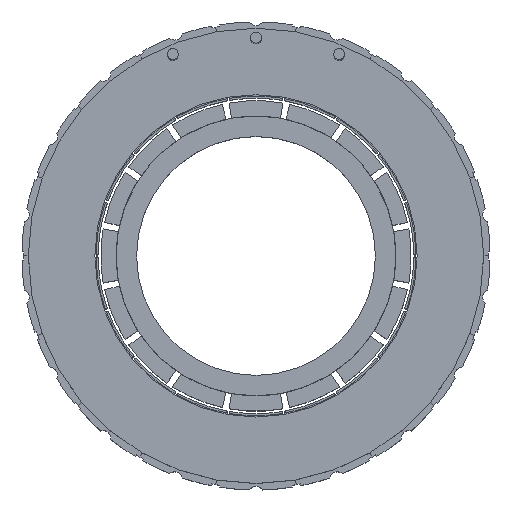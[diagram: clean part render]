
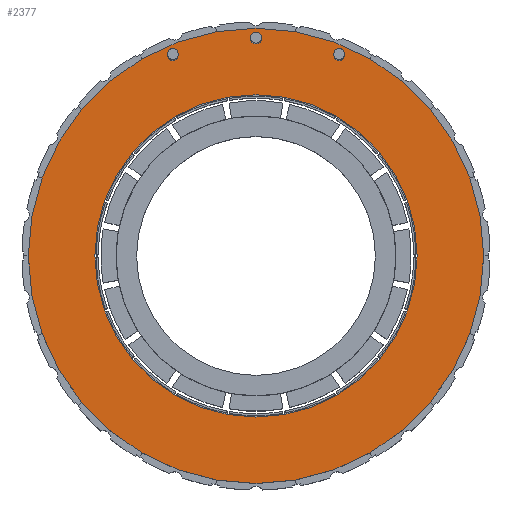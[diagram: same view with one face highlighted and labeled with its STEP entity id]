
A CAD part, top view. The second image highlights one B-rep face of the part: STEP entity #2377.
In plain terms, the highlighted planar face has unit normal (0, 0, 1).
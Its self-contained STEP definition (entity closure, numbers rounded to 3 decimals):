
#82 = ORIENTED_EDGE ( 'NONE', *, *, #1435, .T. ) ;
#107 = EDGE_CURVE ( 'NONE', #5056, #3053, #3077, .T. ) ;
#182 = DIRECTION ( 'NONE',  ( 0., 0., 1. ) ) ;
#243 = AXIS2_PLACEMENT_3D ( 'NONE', #2244, #3508, #4837 ) ;
#278 = CARTESIAN_POINT ( 'NONE',  ( 0., 0., 28.5 ) ) ;
#367 = ORIENTED_EDGE ( 'NONE', *, *, #4792, .F. ) ;
#647 = EDGE_LOOP ( 'NONE', ( #4572, #82 ) ) ;
#730 = ORIENTED_EDGE ( 'NONE', *, *, #2211, .F. ) ;
#830 = DIRECTION ( 'NONE',  ( 1., 0., 0. ) ) ;
#871 = DIRECTION ( 'NONE',  ( 0., 0., 1. ) ) ;
#877 = PLANE ( 'NONE',  #243 ) ;
#961 = CIRCLE ( 'NONE', #1499, 31.5 ) ;
#1029 = EDGE_LOOP ( 'NONE', ( #1664, #2318 ) ) ;
#1096 = VERTEX_POINT ( 'NONE', #5334 ) ;
#1156 = VERTEX_POINT ( 'NONE', #2701 ) ;
#1246 = CARTESIAN_POINT ( 'NONE',  ( 16.264, 39.265, 28.5 ) ) ;
#1329 = FACE_BOUND ( 'NONE', #3177, .T. ) ;
#1332 = VERTEX_POINT ( 'NONE', #3434 ) ;
#1343 = CIRCLE ( 'NONE', #2166, 1.08 ) ;
#1352 = CARTESIAN_POINT ( 'NONE',  ( 16.264, 39.265, 28.5 ) ) ;
#1384 = FACE_BOUND ( 'NONE', #1029, .T. ) ;
#1409 = FACE_BOUND ( 'NONE', #1919, .T. ) ;
#1435 = EDGE_CURVE ( 'NONE', #1156, #2354, #5402, .T. ) ;
#1464 = ORIENTED_EDGE ( 'NONE', *, *, #2031, .F. ) ;
#1499 = AXIS2_PLACEMENT_3D ( 'NONE', #5003, #2380, #2794 ) ;
#1521 = EDGE_LOOP ( 'NONE', ( #1464, #1951 ) ) ;
#1531 = VERTEX_POINT ( 'NONE', #2496 ) ;
#1664 = ORIENTED_EDGE ( 'NONE', *, *, #2545, .F. ) ;
#1703 = AXIS2_PLACEMENT_3D ( 'NONE', #1352, #871, #2290 ) ;
#1779 = VERTEX_POINT ( 'NONE', #4140 ) ;
#1785 = FACE_OUTER_BOUND ( 'NONE', #647, .T. ) ;
#1788 = CIRCLE ( 'NONE', #4226, 1.08 ) ;
#1919 = EDGE_LOOP ( 'NONE', ( #4561, #367 ) ) ;
#1951 = ORIENTED_EDGE ( 'NONE', *, *, #4111, .F. ) ;
#2031 = EDGE_CURVE ( 'NONE', #1531, #1096, #3415, .T. ) ;
#2092 = VERTEX_POINT ( 'NONE', #3429 ) ;
#2166 = AXIS2_PLACEMENT_3D ( 'NONE', #3791, #5506, #3762 ) ;
#2211 = EDGE_CURVE ( 'NONE', #2092, #1332, #1788, .T. ) ;
#2244 = CARTESIAN_POINT ( 'NONE',  ( 0., 0., 28.5 ) ) ;
#2252 = CIRCLE ( 'NONE', #1703, 1.08 ) ;
#2290 = DIRECTION ( 'NONE',  ( 1., 0., 0. ) ) ;
#2318 = ORIENTED_EDGE ( 'NONE', *, *, #3578, .F. ) ;
#2354 = VERTEX_POINT ( 'NONE', #3080 ) ;
#2371 = DIRECTION ( 'NONE',  ( 0., 0., 1. ) ) ;
#2377 = ADVANCED_FACE ( 'NONE', ( #1409, #1329, #4750, #1785, #1384 ), #877, .T. ) ;
#2380 = DIRECTION ( 'NONE',  ( 0., 0., 1. ) ) ;
#2382 = AXIS2_PLACEMENT_3D ( 'NONE', #3669, #2371, #3269 ) ;
#2386 = DIRECTION ( 'NONE',  ( 1., 0., 0. ) ) ;
#2477 = DIRECTION ( 'NONE',  ( 1., 0., 0. ) ) ;
#2496 = CARTESIAN_POINT ( 'NONE',  ( -1.08, 42.5, 28.5 ) ) ;
#2522 = DIRECTION ( 'NONE',  ( 0., 0., 1. ) ) ;
#2545 = EDGE_CURVE ( 'NONE', #1779, #4592, #961, .T. ) ;
#2575 = DIRECTION ( 'NONE',  ( 1., 0., 0. ) ) ;
#2610 = CARTESIAN_POINT ( 'NONE',  ( 0., 0., 28.5 ) ) ;
#2627 = CARTESIAN_POINT ( 'NONE',  ( -15.184, 39.265, 28.5 ) ) ;
#2701 = CARTESIAN_POINT ( 'NONE',  ( 44.5, 0., 28.5 ) ) ;
#2794 = DIRECTION ( 'NONE',  ( 1., 0., 0. ) ) ;
#2864 = CARTESIAN_POINT ( 'NONE',  ( 0., 42.5, 28.5 ) ) ;
#2917 = DIRECTION ( 'NONE',  ( 1., 0., 0. ) ) ;
#3053 = VERTEX_POINT ( 'NONE', #2627 ) ;
#3077 = CIRCLE ( 'NONE', #3626, 1.08 ) ;
#3080 = CARTESIAN_POINT ( 'NONE',  ( -44.5, 0., 28.5 ) ) ;
#3118 = AXIS2_PLACEMENT_3D ( 'NONE', #278, #3812, #2477 ) ;
#3177 = EDGE_LOOP ( 'NONE', ( #3650, #730 ) ) ;
#3201 = EDGE_CURVE ( 'NONE', #2354, #1156, #4812, .T. ) ;
#3269 = DIRECTION ( 'NONE',  ( 1., 0., 0. ) ) ;
#3375 = DIRECTION ( 'NONE',  ( 0., 0., 1. ) ) ;
#3415 = CIRCLE ( 'NONE', #3686, 1.08 ) ;
#3429 = CARTESIAN_POINT ( 'NONE',  ( 17.344, 39.265, 28.5 ) ) ;
#3434 = CARTESIAN_POINT ( 'NONE',  ( 15.184, 39.265, 28.5 ) ) ;
#3508 = DIRECTION ( 'NONE',  ( 0., 0., 1. ) ) ;
#3578 = EDGE_CURVE ( 'NONE', #4592, #1779, #4122, .T. ) ;
#3626 = AXIS2_PLACEMENT_3D ( 'NONE', #4588, #182, #2386 ) ;
#3650 = ORIENTED_EDGE ( 'NONE', *, *, #4999, .F. ) ;
#3669 = CARTESIAN_POINT ( 'NONE',  ( 0., 0., 28.5 ) ) ;
#3686 = AXIS2_PLACEMENT_3D ( 'NONE', #4731, #4252, #830 ) ;
#3711 = CARTESIAN_POINT ( 'NONE',  ( 31.5, 0., 28.5 ) ) ;
#3762 = DIRECTION ( 'NONE',  ( 1., 0., 0. ) ) ;
#3791 = CARTESIAN_POINT ( 'NONE',  ( -16.264, 39.265, 28.5 ) ) ;
#3812 = DIRECTION ( 'NONE',  ( 0., 0., 1. ) ) ;
#3890 = DIRECTION ( 'NONE',  ( 1., 0., 0. ) ) ;
#4051 = CIRCLE ( 'NONE', #4683, 1.08 ) ;
#4111 = EDGE_CURVE ( 'NONE', #1096, #1531, #4051, .T. ) ;
#4122 = CIRCLE ( 'NONE', #3118, 31.5 ) ;
#4140 = CARTESIAN_POINT ( 'NONE',  ( -31.5, 0., 28.5 ) ) ;
#4226 = AXIS2_PLACEMENT_3D ( 'NONE', #1246, #2522, #2575 ) ;
#4233 = AXIS2_PLACEMENT_3D ( 'NONE', #2610, #3375, #3890 ) ;
#4252 = DIRECTION ( 'NONE',  ( 0., 0., 1. ) ) ;
#4561 = ORIENTED_EDGE ( 'NONE', *, *, #107, .F. ) ;
#4572 = ORIENTED_EDGE ( 'NONE', *, *, #3201, .T. ) ;
#4588 = CARTESIAN_POINT ( 'NONE',  ( -16.264, 39.265, 28.5 ) ) ;
#4592 = VERTEX_POINT ( 'NONE', #3711 ) ;
#4683 = AXIS2_PLACEMENT_3D ( 'NONE', #2864, #5493, #2917 ) ;
#4731 = CARTESIAN_POINT ( 'NONE',  ( 0., 42.5, 28.5 ) ) ;
#4750 = FACE_BOUND ( 'NONE', #1521, .T. ) ;
#4792 = EDGE_CURVE ( 'NONE', #3053, #5056, #1343, .T. ) ;
#4812 = CIRCLE ( 'NONE', #2382, 44.5 ) ;
#4837 = DIRECTION ( 'NONE',  ( 1., 0., 0. ) ) ;
#4858 = CARTESIAN_POINT ( 'NONE',  ( -17.344, 39.265, 28.5 ) ) ;
#4999 = EDGE_CURVE ( 'NONE', #1332, #2092, #2252, .T. ) ;
#5003 = CARTESIAN_POINT ( 'NONE',  ( 0., 0., 28.5 ) ) ;
#5056 = VERTEX_POINT ( 'NONE', #4858 ) ;
#5334 = CARTESIAN_POINT ( 'NONE',  ( 1.08, 42.5, 28.5 ) ) ;
#5402 = CIRCLE ( 'NONE', #4233, 44.5 ) ;
#5493 = DIRECTION ( 'NONE',  ( 0., 0., 1. ) ) ;
#5506 = DIRECTION ( 'NONE',  ( 0., 0., 1. ) ) ;
